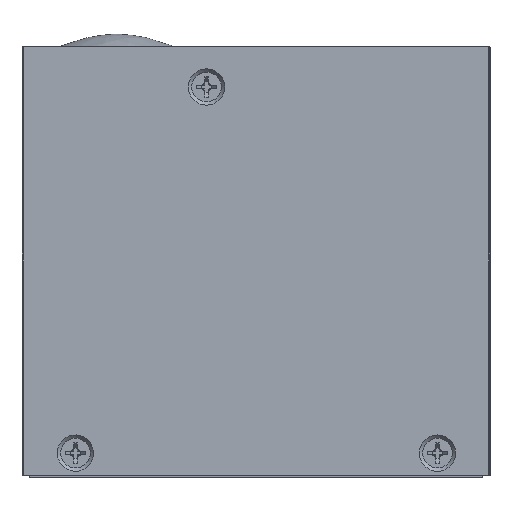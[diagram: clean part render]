
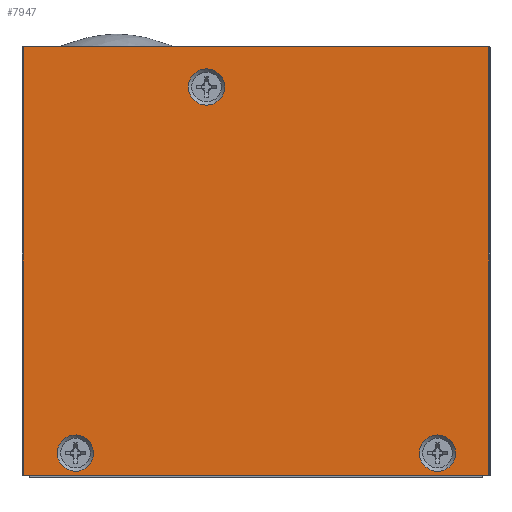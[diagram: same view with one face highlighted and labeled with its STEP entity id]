
A CAD part, top view. The second image highlights one B-rep face of the part: STEP entity #7947.
In plain terms, the highlighted planar face has unit normal (0, 0, 1).
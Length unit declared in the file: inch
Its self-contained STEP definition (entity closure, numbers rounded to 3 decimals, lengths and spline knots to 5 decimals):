
#297=CIRCLE('',#8431,0.09);
#299=CIRCLE('',#8434,0.09);
#301=CIRCLE('',#8437,0.09);
#1231=ORIENTED_EDGE('',*,*,#3059,.T.);
#1232=ORIENTED_EDGE('',*,*,#3057,.T.);
#1233=ORIENTED_EDGE('',*,*,#3055,.T.);
#1234=ORIENTED_EDGE('',*,*,#3289,.F.);
#1235=ORIENTED_EDGE('',*,*,#3290,.F.);
#1236=ORIENTED_EDGE('',*,*,#3286,.F.);
#1237=ORIENTED_EDGE('',*,*,#3291,.F.);
#3055=EDGE_CURVE('',#4156,#4156,#297,.T.);
#3057=EDGE_CURVE('',#4158,#4158,#299,.T.);
#3059=EDGE_CURVE('',#4160,#4160,#301,.T.);
#3286=EDGE_CURVE('',#4335,#4336,#5104,.T.);
#3289=EDGE_CURVE('',#4337,#4338,#5107,.T.);
#3290=EDGE_CURVE('',#4336,#4337,#5108,.T.);
#3291=EDGE_CURVE('',#4338,#4335,#5109,.T.);
#4156=VERTEX_POINT('',#11802);
#4158=VERTEX_POINT('',#11807);
#4160=VERTEX_POINT('',#11812);
#4335=VERTEX_POINT('',#12268);
#4336=VERTEX_POINT('',#12269);
#4337=VERTEX_POINT('',#12274);
#4338=VERTEX_POINT('',#12275);
#5104=LINE('',#12267,#5982);
#5107=LINE('',#12273,#5985);
#5108=LINE('',#12276,#5986);
#5109=LINE('',#12277,#5987);
#5982=VECTOR('',#9866,39.37008);
#5985=VECTOR('',#9871,39.37008);
#5986=VECTOR('',#9872,39.37008);
#5987=VECTOR('',#9873,39.37008);
#6672=EDGE_LOOP('',(#1231));
#6673=EDGE_LOOP('',(#1232));
#6674=EDGE_LOOP('',(#1233));
#6675=EDGE_LOOP('',(#1234,#1235,#1236,#1237));
#7181=FACE_BOUND('',#6672,.T.);
#7182=FACE_BOUND('',#6673,.T.);
#7183=FACE_BOUND('',#6674,.T.);
#7184=FACE_BOUND('',#6675,.T.);
#7583=PLANE('',#8529);
#7947=ADVANCED_FACE('',(#7181,#7182,#7183,#7184),#7583,.T.);
#8431=AXIS2_PLACEMENT_3D('',#11801,#9481,#9482);
#8434=AXIS2_PLACEMENT_3D('',#11806,#9487,#9488);
#8437=AXIS2_PLACEMENT_3D('',#11811,#9493,#9494);
#8529=AXIS2_PLACEMENT_3D('',#12272,#9869,#9870);
#9481=DIRECTION('',(0.,0.,-1.));
#9482=DIRECTION('',(1.,0.,0.));
#9487=DIRECTION('',(0.,0.,-1.));
#9488=DIRECTION('',(1.,0.,0.));
#9493=DIRECTION('',(0.,0.,-1.));
#9494=DIRECTION('',(1.,0.,0.));
#9866=DIRECTION('',(0.,-1.,0.));
#9869=DIRECTION('',(0.,0.,1.));
#9870=DIRECTION('',(1.,0.,0.));
#9871=DIRECTION('',(0.,1.,0.));
#9872=DIRECTION('',(-1.,0.,0.));
#9873=DIRECTION('',(1.,0.,0.));
#11801=CARTESIAN_POINT('',(-0.245,0.83625,0.635));
#11802=CARTESIAN_POINT('',(-0.155,0.83625,0.635));
#11806=CARTESIAN_POINT('',(0.9,-0.97875,0.635));
#11807=CARTESIAN_POINT('',(0.99,-0.97875,0.635));
#11811=CARTESIAN_POINT('',(-0.895,-0.97875,0.635));
#11812=CARTESIAN_POINT('',(-0.805,-0.97875,0.635));
#12267=CARTESIAN_POINT('',(1.155,1.03625,0.635));
#12268=CARTESIAN_POINT('',(1.155,1.03625,0.635));
#12269=CARTESIAN_POINT('',(1.155,-1.08875,0.635));
#12272=CARTESIAN_POINT('',(-0.20825,0.83625,0.635));
#12273=CARTESIAN_POINT('',(-1.155,-1.08875,0.635));
#12274=CARTESIAN_POINT('',(-1.155,-1.08875,0.635));
#12275=CARTESIAN_POINT('',(-1.155,1.03625,0.635));
#12276=CARTESIAN_POINT('',(-1.16,-1.08875,0.635));
#12277=CARTESIAN_POINT('',(1.1525,1.03625,0.635));
